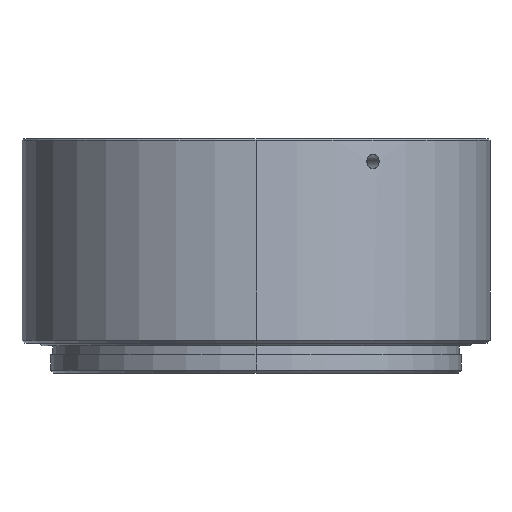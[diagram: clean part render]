
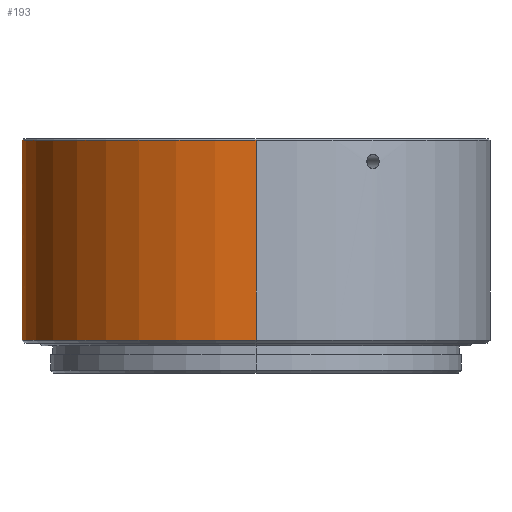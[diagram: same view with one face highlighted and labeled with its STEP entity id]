
A CAD part, left-side view. The second image highlights one B-rep face of the part: STEP entity #193.
In plain terms, the highlighted cylindrical face has radius 41 mm (diameter 82 mm), a partial arc.
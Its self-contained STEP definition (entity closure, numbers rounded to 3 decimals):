
#1 = CARTESIAN_POINT ( 'NONE',  ( 0.63, 40.995, -2.908 ) ) ;
#5 = LINE ( 'NONE', #1032, #269 ) ;
#19 = DIRECTION ( 'NONE',  ( 0., 0., -1. ) ) ;
#38 = EDGE_CURVE ( 'NONE', #772, #437, #832, .T. ) ;
#54 = CARTESIAN_POINT ( 'NONE',  ( 0., 0., -35.3 ) ) ;
#80 = FACE_BOUND ( 'NONE', #791, .T. ) ;
#85 = DIRECTION ( 'NONE',  ( 0., 0., 1. ) ) ;
#91 = CARTESIAN_POINT ( 'NONE',  ( 0.995, 40.988, -3.239 ) ) ;
#95 = CARTESIAN_POINT ( 'NONE',  ( 0.329, 40.999, -2.783 ) ) ;
#96 = CARTESIAN_POINT ( 'NONE',  ( -1.092, 40.985, -4.629 ) ) ;
#145 = CARTESIAN_POINT ( 'NONE',  ( 0.328, 40.999, -5.217 ) ) ;
#183 = CARTESIAN_POINT ( 'NONE',  ( 0.769, 40.993, -3.001 ) ) ;
#193 = ADVANCED_FACE ( 'NONE', ( #80, #861 ), #614, .T. ) ;
#199 = VERTEX_POINT ( 'NONE', #357 ) ;
#217 = EDGE_CURVE ( 'NONE', #1044, #199, #1119, .T. ) ;
#231 = CARTESIAN_POINT ( 'NONE',  ( -41., 0., -35.3 ) ) ;
#236 = DIRECTION ( 'NONE',  ( 1., 0., 0. ) ) ;
#245 = CARTESIAN_POINT ( 'NONE',  ( 41., 0., -0.3 ) ) ;
#258 = CARTESIAN_POINT ( 'NONE',  ( 1.217, 40.982, -4.328 ) ) ;
#259 = DIRECTION ( 'NONE',  ( 0., 0., 1. ) ) ;
#265 = ORIENTED_EDGE ( 'NONE', *, *, #217, .T. ) ;
#267 = CARTESIAN_POINT ( 'NONE',  ( -0.63, 40.995, -2.908 ) ) ;
#268 = AXIS2_PLACEMENT_3D ( 'NONE', #341, #259, #348 ) ;
#269 = VECTOR ( 'NONE', #338, 1000. ) ;
#272 = CARTESIAN_POINT ( 'NONE',  ( -0.082, 41., -5.25 ) ) ;
#286 = AXIS2_PLACEMENT_3D ( 'NONE', #54, #1025, #236 ) ;
#338 = DIRECTION ( 'NONE',  ( 0., 0., 1. ) ) ;
#341 = CARTESIAN_POINT ( 'NONE',  ( 0., 0., 0. ) ) ;
#348 = DIRECTION ( 'NONE',  ( 1., 0., 0. ) ) ;
#351 = CARTESIAN_POINT ( 'NONE',  ( 1.124, 40.985, -3.447 ) ) ;
#357 = CARTESIAN_POINT ( 'NONE',  ( 0., 41., -5.25 ) ) ;
#361 = DIRECTION ( 'NONE',  ( -1., 0., 0. ) ) ;
#400 = VERTEX_POINT ( 'NONE', #768 ) ;
#410 = CARTESIAN_POINT ( 'NONE',  ( 0.768, 40.993, -5. ) ) ;
#419 = CARTESIAN_POINT ( 'NONE',  ( 1.218, 40.982, -3.674 ) ) ;
#421 = CARTESIAN_POINT ( 'NONE',  ( -1.217, 40.982, -3.672 ) ) ;
#435 = CARTESIAN_POINT ( 'NONE',  ( 1.092, 40.986, -4.631 ) ) ;
#437 = VERTEX_POINT ( 'NONE', #245 ) ;
#490 = EDGE_CURVE ( 'NONE', #199, #1044, #946, .T. ) ;
#508 = CARTESIAN_POINT ( 'NONE',  ( 1.25, 40.981, -3.836 ) ) ;
#509 = CARTESIAN_POINT ( 'NONE',  ( -0.165, 41., -2.75 ) ) ;
#514 = CARTESIAN_POINT ( 'NONE',  ( -0.403, 40.998, -5.186 ) ) ;
#521 = EDGE_CURVE ( 'NONE', #400, #437, #962, .T. ) ;
#525 = CARTESIAN_POINT ( 'NONE',  ( -1.092, 40.985, -3.371 ) ) ;
#527 = ORIENTED_EDGE ( 'NONE', *, *, #521, .F. ) ;
#529 = CARTESIAN_POINT ( 'NONE',  ( 0., 41., -2.75 ) ) ;
#564 = CARTESIAN_POINT ( 'NONE',  ( 0., 41., -5.25 ) ) ;
#568 = EDGE_CURVE ( 'NONE', #799, #772, #5, .T. ) ;
#603 = CARTESIAN_POINT ( 'NONE',  ( -0.164, 41., -5.242 ) ) ;
#614 = CYLINDRICAL_SURFACE ( 'NONE', #268, 41. ) ;
#618 = CARTESIAN_POINT ( 'NONE',  ( -0.769, 40.993, -3.001 ) ) ;
#643 = CARTESIAN_POINT ( 'NONE',  ( 0., 41., -2.75 ) ) ;
#691 = CARTESIAN_POINT ( 'NONE',  ( -0.63, 40.995, -5.092 ) ) ;
#700 = CARTESIAN_POINT ( 'NONE',  ( -0.767, 40.993, -5. ) ) ;
#703 = CARTESIAN_POINT ( 'NONE',  ( 0., 41., -2.75 ) ) ;
#706 = CARTESIAN_POINT ( 'NONE',  ( -0.999, 40.988, -3.232 ) ) ;
#768 = CARTESIAN_POINT ( 'NONE',  ( 41., 0., -35.3 ) ) ;
#772 = VERTEX_POINT ( 'NONE', #921 ) ;
#780 = CIRCLE ( 'NONE', #286, 41. ) ;
#786 = CARTESIAN_POINT ( 'NONE',  ( 1.25, 40.981, -4.166 ) ) ;
#791 = EDGE_LOOP ( 'NONE', ( #265, #1041 ) ) ;
#799 = VERTEX_POINT ( 'NONE', #231 ) ;
#810 = ORIENTED_EDGE ( 'NONE', *, *, #38, .T. ) ;
#832 = CIRCLE ( 'NONE', #1065, 41. ) ;
#847 = CARTESIAN_POINT ( 'NONE',  ( 0.628, 40.995, -5.093 ) ) ;
#860 = CARTESIAN_POINT ( 'NONE',  ( 0.942, 40.989, -3.174 ) ) ;
#861 = FACE_OUTER_BOUND ( 'NONE', #901, .T. ) ;
#878 = CARTESIAN_POINT ( 'NONE',  ( -1.25, 40.981, -4.163 ) ) ;
#882 = CARTESIAN_POINT ( 'NONE',  ( -1.25, 40.981, -3.836 ) ) ;
#901 = EDGE_LOOP ( 'NONE', ( #1056, #1096, #810, #527 ) ) ;
#921 = CARTESIAN_POINT ( 'NONE',  ( -41., 0., -0.3 ) ) ;
#923 = VECTOR ( 'NONE', #85, 1000. ) ;
#935 = CARTESIAN_POINT ( 'NONE',  ( 0.163, 41., -5.25 ) ) ;
#946 = B_SPLINE_CURVE_WITH_KNOTS ( 'NONE', 3,
 ( #564, #935, #145, #847, #410, #1110, #435, #258, #786, #508, #419, #351, #966, #91, #860, #183, #1, #95, #1042, #529 ),
 .UNSPECIFIED., .F., .F.,
 ( 4, 2, 2, 2, 2, 2, 2, 2, 2, 4 ),
 ( 0.004, 0.004, 0.005, 0.005, 0.006, 0.006, 0.007, 0.007, 0.007, 0.008 ),
 .UNSPECIFIED. ) ;
#958 = CARTESIAN_POINT ( 'NONE',  ( -0.327, 40.999, -2.783 ) ) ;
#962 = LINE ( 'NONE', #1120, #923 ) ;
#966 = CARTESIAN_POINT ( 'NONE',  ( 1.085, 40.986, -3.375 ) ) ;
#967 = CARTESIAN_POINT ( 'NONE',  ( 0., 41., -5.25 ) ) ;
#1025 = DIRECTION ( 'NONE',  ( 0., 0., 1. ) ) ;
#1032 = CARTESIAN_POINT ( 'NONE',  ( -41., 0., 0. ) ) ;
#1040 = CARTESIAN_POINT ( 'NONE',  ( -0.325, 40.999, -5.21 ) ) ;
#1041 = ORIENTED_EDGE ( 'NONE', *, *, #490, .T. ) ;
#1042 = CARTESIAN_POINT ( 'NONE',  ( 0.165, 41., -2.75 ) ) ;
#1044 = VERTEX_POINT ( 'NONE', #643 ) ;
#1053 = CARTESIAN_POINT ( 'NONE',  ( -1.001, 40.988, -4.767 ) ) ;
#1056 = ORIENTED_EDGE ( 'NONE', *, *, #1095, .T. ) ;
#1062 = CARTESIAN_POINT ( 'NONE',  ( 0., 0., -0.3 ) ) ;
#1065 = AXIS2_PLACEMENT_3D ( 'NONE', #1062, #19, #361 ) ;
#1095 = EDGE_CURVE ( 'NONE', #400, #799, #780, .T. ) ;
#1096 = ORIENTED_EDGE ( 'NONE', *, *, #568, .T. ) ;
#1110 = CARTESIAN_POINT ( 'NONE',  ( 0.999, 40.988, -4.769 ) ) ;
#1119 = B_SPLINE_CURVE_WITH_KNOTS ( 'NONE', 3,
 ( #703, #509, #958, #267, #618, #706, #525, #421, #882, #878, #1122, #96, #1053, #700, #691, #514, #1040, #603, #272, #967 ),
 .UNSPECIFIED., .F., .F.,
 ( 4, 2, 2, 2, 2, 2, 2, 2, 2, 4 ),
 ( 0., 0., 0.001, 0.001, 0.002, 0.002, 0.003, 0.003, 0.004, 0.004 ),
 .UNSPECIFIED. ) ;
#1120 = CARTESIAN_POINT ( 'NONE',  ( 41., 0., 0. ) ) ;
#1122 = CARTESIAN_POINT ( 'NONE',  ( -1.218, 40.982, -4.326 ) ) ;
